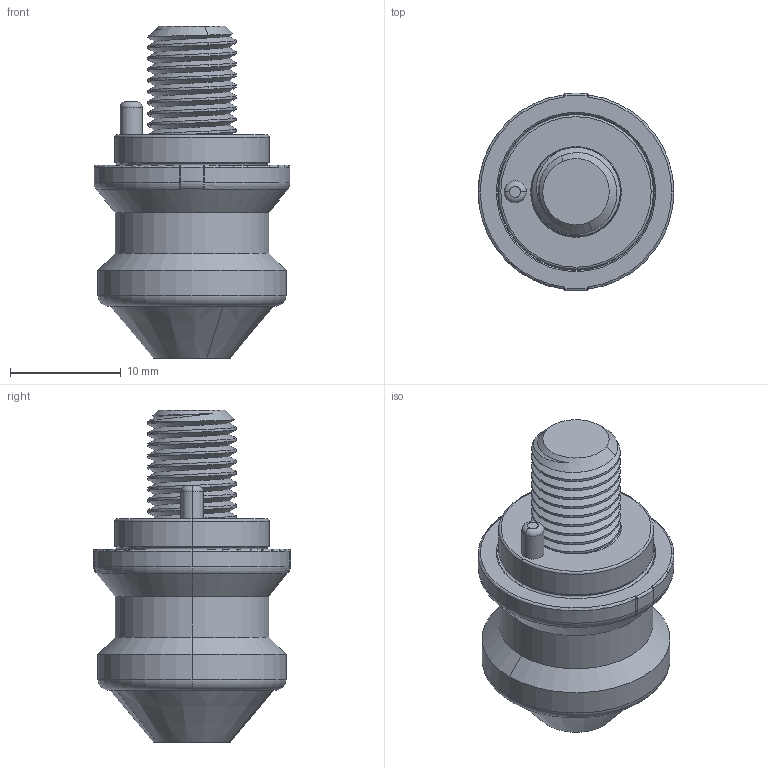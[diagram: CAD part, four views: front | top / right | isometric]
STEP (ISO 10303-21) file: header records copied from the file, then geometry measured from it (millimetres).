
FILE_DESCRIPTION (( 'STEP AP214' ), '1' );
FILE_NAME ('Q5隅砃嶺隊.STEP', '2020-10-13T04:28:30', ( 'Dell' ), ( 'Dell' ), 'SwSTEP 2.0', 'SolidWorks 2018', '' );
FILE_SCHEMA (( 'AUTOMOTIVE_DESIGN' ));
Length unit declared in the file: millimetre
Products named in the file (4): Q5隅砃嶺隊(1).sldasm-Part-2; Q5隅砃嶺隊(1).sldasm-Part-3; Q5隅砃嶺隊; Q5隅砃嶺隊(1).sldasm-Part-1
Assembly tree (3 placements, depth 2):
  Q5隅砃嶺隊
    Q5隅砃嶺隊(1).sldasm-Part-1
    Q5隅砃嶺隊(1).sldasm-Part-2
    Q5隅砃嶺隊(1).sldasm-Part-3
Bounding box: 17.7 x 17.89 x 30 mm (x, y, z)
Volume: 3741.1 mm3; surface area: 2943.3 mm2
Topology: 3 solids, 3 shells, 138 faces, 325 edges, 188 vertices
Faces by surface type: cylinder 52, torus 28, bspline 22, cone 19, plane 17
Entity records: 6157 total; most frequent: CARTESIAN_POINT 2808, ORIENTED_EDGE 630, DIRECTION 596, EDGE_CURVE 315, AXIS2_PLACEMENT_3D 250, VERTEX_POINT 188, EDGE_LOOP 145, FACE_OUTER_BOUND 138
